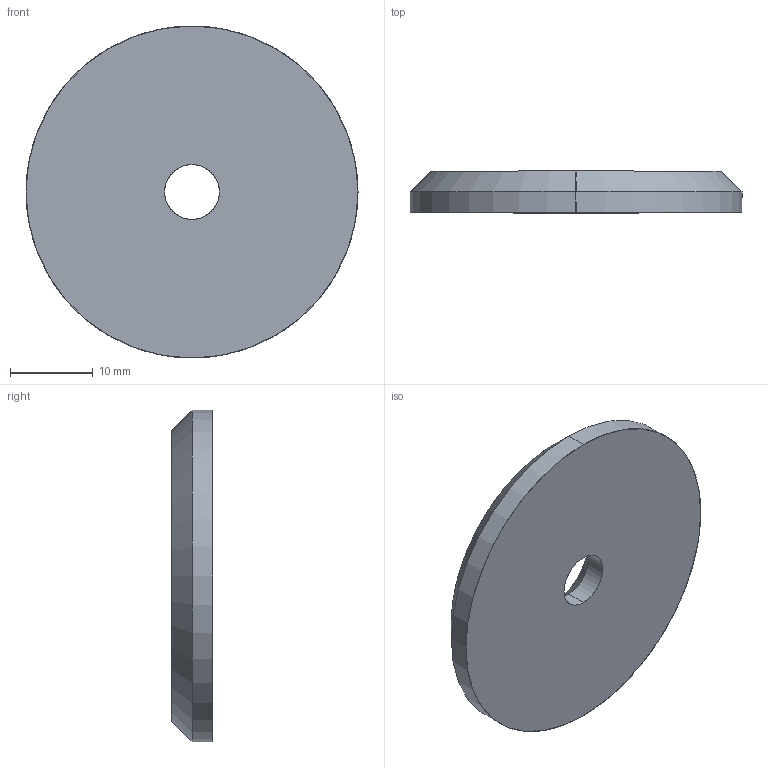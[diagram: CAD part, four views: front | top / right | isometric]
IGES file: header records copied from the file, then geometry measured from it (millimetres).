
Start section: SolidWorks IGES file using analytic representation for surfaces
Global section: file name: C:\Documents and Settings\IANO\Desktop\Temp File\Process pending\EXISTING\36720_v2\36720_v2_20170629_IGES\36720.W0540.igs; native system: SolidWorks 2009; preprocessor: SolidWorks 2009; author: IANO; date: 170627.111021; units: millimetre
Bounding box: 40 x 5 x 40 mm (x, y, z)
Surface area: 2962.4 mm2 (no closed solid volume)
Topology: 0 solids, 0 shells, 10 faces, 224 edges, 224 vertices
Faces by surface type: revolution 8, bspline 2
